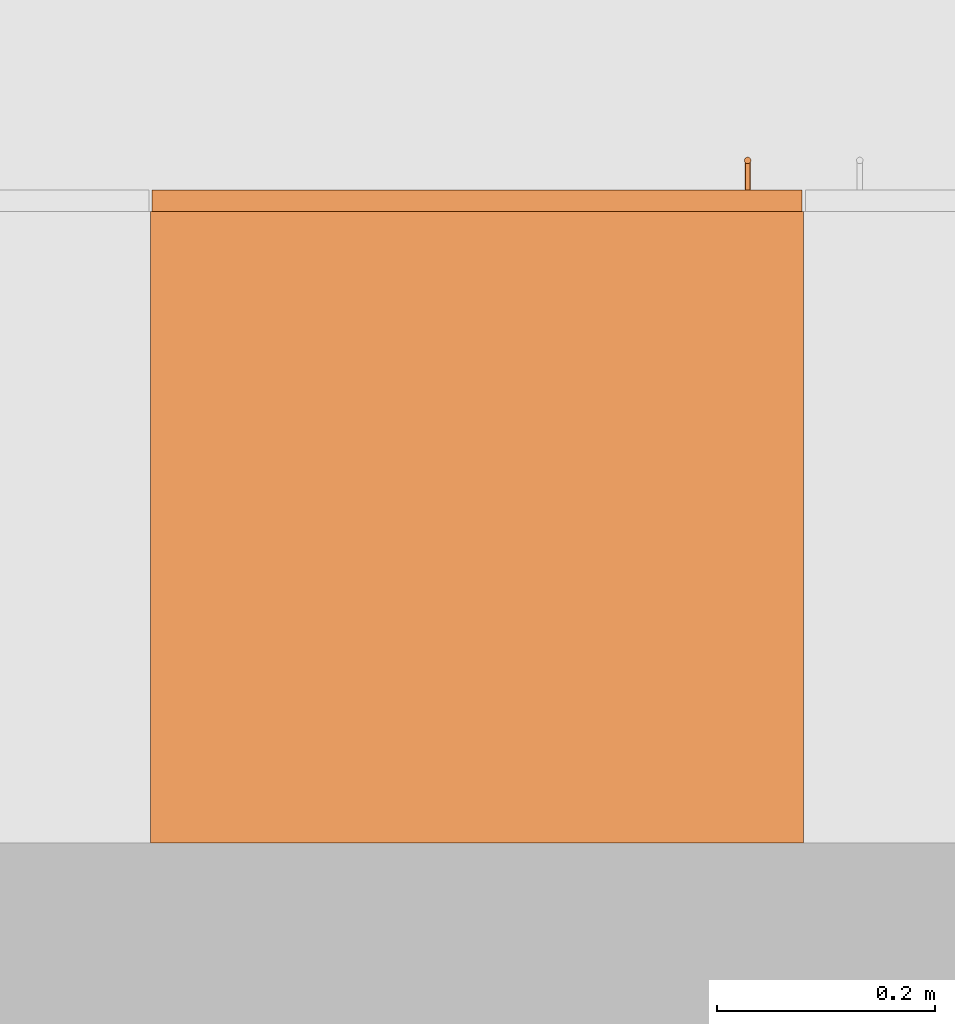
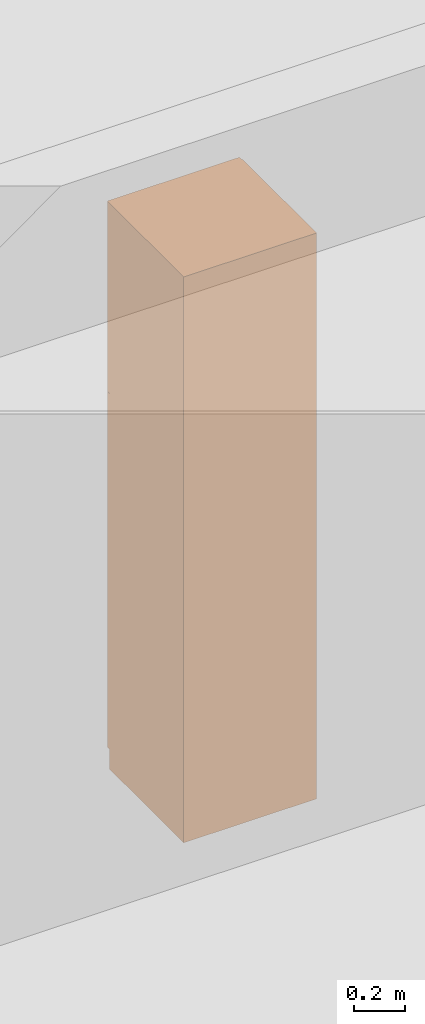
# One storey, part 99 of 167: 1 proxy.
"""IFC2X3 building model written with IfcOpenShell, lengths in millimetres."""

from ifc_helpers import new_model, entity, si_unit, converted_unit, derived_unit, money_unit, direction, frame, origin_with_axes, place, context, subcontext, project, spatial, open_shell, faceted_brep, surface_model, source, transform, mapped, type_object, type_shapes, element, save


model = new_model("IFC2X3")

# Units and contexts
model_context = context("Model", 3, precision=0.01, world=origin_with_axes(), true_north=direction((0.0, 1.0)))
plan_context = context("Plan", 3, precision=0.01, world=origin_with_axes(), true_north=direction((0.0, 1.0)))
body_context = subcontext(model_context, "Body", "Model", "MODEL_VIEW")
ifc_project = project(units=[si_unit("LENGTHUNIT", "METRE", prefix="MILLI"), si_unit("AREAUNIT", "SQUARE_METRE"), si_unit("VOLUMEUNIT", "CUBIC_METRE"), converted_unit("PLANEANGLEUNIT", "DEGREE", entity("IfcPlaneAngleMeasure", 0.0174532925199), si_unit("PLANEANGLEUNIT", "RADIAN"), dimensions=[0, 0, 0, 0, 0, 0, 0]), si_unit("SOLIDANGLEUNIT", "STERADIAN"), money_unit("EUR"), converted_unit("TIMEUNIT", "Year", entity("IfcTimeMeasure", 31556926.0), si_unit("TIMEUNIT", "SECOND"), dimensions=[0, 0, 1, 0, 0, 0, 0]), si_unit("MASSUNIT", "GRAM", prefix="KILO"), si_unit("THERMODYNAMICTEMPERATUREUNIT", "DEGREE_CELSIUS"), si_unit("LUMINOUSINTENSITYUNIT", "LUMEN"), si_unit("ENERGYUNIT", "JOULE", prefix="MEGA"), derived_unit("THERMALCONDUCTANCEUNIT", [(si_unit("POWERUNIT", "WATT"), 1), (si_unit("LENGTHUNIT", "METRE"), -1), (si_unit("THERMODYNAMICTEMPERATUREUNIT", "KELVIN"), -1)]), derived_unit("SPECIFICHEATCAPACITYUNIT", [(si_unit("ENERGYUNIT", "JOULE"), 1), (si_unit("MASSUNIT", "GRAM", prefix="KILO"), -1), (si_unit("THERMODYNAMICTEMPERATUREUNIT", "KELVIN"), -1)]), derived_unit("MASSDENSITYUNIT", [(si_unit("MASSUNIT", "GRAM", prefix="KILO"), 1), (si_unit("VOLUMEUNIT", "CUBIC_METRE"), -1)])], contexts=[model_context, plan_context])

# Site, building, storey
site_placement = place(None, origin_with_axes())
site = spatial("IfcSite", under=ifc_project, at=site_placement, Name="Site", CompositionType="ELEMENT")
building_placement = place(site_placement, origin_with_axes())
building = spatial("IfcBuilding", under=site, at=building_placement, Name="Naam gebouw", CompositionType="ELEMENT")
storey_placement = place(building_placement, origin_with_axes())
storey = spatial("IfcBuildingStorey", under=building, at=storey_placement, Name="Begane grond", CompositionType="ELEMENT", Elevation=0.0)

# Proxy
building_element_proxy_type = type_object("IfcBuildingElementProxyType", Name="Kast hoog 1D 24", PredefinedType="NOTDEFINED")
shared_shape = source(origin_with_axes(), body_context, "Body", "SurfaceModel", [
    faceted_brep([(-20.0, 20.0, 1780.0), (-20.0, 20.0, 1800.0), (-580.0, 20.0, 1800.0), (-580.0, 20.0, 1780.0), (-20.0, 580.0, 1780.0), (-20.0, 580.0, 1800.0), (-580.0, 580.0, 1800.0), (-580.0, 580.0, 1780.0)], [[[0, 1, 2, 3]], [[4, 5, 1, 0]], [[1, 5, 6, 2]], [[3, 2, 6, 7]], [[0, 3, 7, 4]], [[7, 6, 5, 4]]]),
    faceted_brep([(0.0, 20.0, 0.0), (0.0, 20.0, 90.0), (-600.0, 20.0, 90.0), (-600.0, 20.0, 0.0), (0.0, 600.0, 0.0), (0.0, 600.0, 90.0), (-600.0, 600.0, 90.0), (-600.0, 600.0, 0.0)], [[[0, 1, 2, 3]], [[4, 5, 1, 0]], [[1, 5, 6, 2]], [[3, 2, 6, 7]], [[0, 3, 7, 4]], [[7, 6, 5, 4]]]),
    faceted_brep([(0.0, 20.0, 2680.0), (0.0, 20.0, 2700.0), (-20.0, 20.0, 2700.0), (-20.0, 20.0, 2680.0), (0.0, 600.0, 2680.0), (0.0, 600.0, 2700.0), (-20.0, 600.0, 2700.0), (-580.0, 600.0, 2700.0), (-600.0, 600.0, 2700.0), (-600.0, 20.0, 2700.0), (-580.0, 20.0, 2700.0), (-580.0, 20.0, 2680.0), (-600.0, 20.0, 2680.0), (-600.0, 600.0, 2680.0), (-580.0, 600.0, 2680.0), (-20.0, 600.0, 2680.0)], [[[0, 1, 2, 3]], [[4, 5, 1, 0]], [[1, 5, 6, 7, 8, 9, 10, 2]], [[3, 2, 10, 11]], [[0, 3, 11, 12, 13, 14, 15, 4]], [[15, 6, 5, 4]], [[14, 7, 6, 15]], [[13, 8, 7, 14]], [[12, 9, 8, 13]], [[11, 10, 9, 12]]]),
    faceted_brep([(0.0, 20.0, 90.0), (0.0, 20.0, 110.0), (-20.0, 20.0, 110.0), (-20.0, 20.0, 90.0), (0.0, 600.0, 90.0), (0.0, 600.0, 110.0), (-20.0, 600.0, 110.0), (-580.0, 600.0, 110.0), (-600.0, 600.0, 110.0), (-600.0, 20.0, 110.0), (-580.0, 20.0, 110.0), (-580.0, 20.0, 90.0), (-600.0, 20.0, 90.0), (-600.0, 600.0, 90.0), (-580.0, 600.0, 90.0), (-20.0, 600.0, 90.0)], [[[0, 1, 2, 3]], [[4, 5, 1, 0]], [[1, 5, 6, 7, 8, 9, 10, 2]], [[3, 2, 10, 11]], [[0, 3, 11, 12, 13, 14, 15, 4]], [[15, 6, 5, 4]], [[14, 7, 6, 15]], [[13, 8, 7, 14]], [[12, 9, 8, 13]], [[11, 10, 9, 12]]]),
    faceted_brep([(0.0, 20.0, 110.0), (0.0, 20.0, 2680.0), (-20.0, 20.0, 2680.0), (-20.0, 20.0, 110.0), (0.0, 600.0, 110.0), (0.0, 600.0, 2680.0), (-600.0, 600.0, 2680.0), (-600.0, 20.0, 2680.0), (-580.0, 20.0, 2680.0), (-580.0, 580.0, 2680.0), (-20.0, 580.0, 2680.0), (-20.0, 580.0, 110.0), (-580.0, 580.0, 110.0), (-580.0, 20.0, 110.0), (-600.0, 20.0, 110.0), (-600.0, 600.0, 110.0)], [[[0, 1, 2, 3]], [[4, 5, 1, 0]], [[1, 5, 6, 7, 8, 9, 10, 2]], [[3, 2, 10, 11]], [[0, 3, 11, 12, 13, 14, 15, 4]], [[15, 6, 5, 4]], [[14, 7, 6, 15]], [[13, 8, 7, 14]], [[12, 9, 8, 13]], [[11, 10, 9, 12]]]),
    faceted_brep([(-580.0, 20.0, 414.0), (-580.0, 20.0, 434.0), (-580.0, 580.0, 434.0), (-580.0, 580.0, 414.0), (-20.0, 20.0, 414.0), (-20.0, 20.0, 434.0), (-20.0, 580.0, 434.0), (-20.0, 580.0, 414.0)], [[[0, 1, 2, 3]], [[4, 5, 1, 0]], [[1, 5, 6, 2]], [[3, 2, 6, 7]], [[0, 3, 7, 4]], [[7, 6, 5, 4]]]),
    faceted_brep([(-580.0, 20.0, 758.0), (-580.0, 20.0, 778.0), (-580.0, 580.0, 778.0), (-580.0, 580.0, 758.0), (-20.0, 20.0, 758.0), (-20.0, 20.0, 778.0), (-20.0, 580.0, 778.0), (-20.0, 580.0, 758.0)], [[[0, 1, 2, 3]], [[4, 5, 1, 0]], [[1, 5, 6, 2]], [[3, 2, 6, 7]], [[0, 3, 7, 4]], [[7, 6, 5, 4]]]),
    faceted_brep([(-580.0, 20.0, 1102.0), (-580.0, 20.0, 1122.0), (-580.0, 580.0, 1122.0), (-580.0, 580.0, 1102.0), (-20.0, 20.0, 1102.0), (-20.0, 20.0, 1122.0), (-20.0, 580.0, 1122.0), (-20.0, 580.0, 1102.0)], [[[0, 1, 2, 3]], [[4, 5, 1, 0]], [[1, 5, 6, 2]], [[3, 2, 6, 7]], [[0, 3, 7, 4]], [[7, 6, 5, 4]]]),
    faceted_brep([(-580.0, 20.0, 1446.0), (-580.0, 20.0, 1466.0), (-580.0, 580.0, 1466.0), (-580.0, 580.0, 1446.0), (-20.0, 20.0, 1446.0), (-20.0, 20.0, 1466.0), (-20.0, 580.0, 1466.0), (-20.0, 580.0, 1446.0)], [[[0, 1, 2, 3]], [[4, 5, 1, 0]], [[1, 5, 6, 2]], [[3, 2, 6, 7]], [[0, 3, 7, 4]], [[7, 6, 5, 4]]]),
    faceted_brep([(-1.5, 20.0, 91.5), (-1.5, 0.0, 91.5), (-598.5, 0.0, 91.5), (-598.5, 20.0, 91.5), (-1.5, 20.0, 1788.5), (-1.5, 0.0, 1788.5), (-598.5, 0.0, 1788.5), (-598.5, 20.0, 1788.5)], [[[0, 1, 2, 3]], [[4, 5, 1, 0]], [[1, 5, 6, 2]], [[3, 2, 6, 7]], [[0, 3, 7, 4]], [[7, 6, 5, 4]]]),
    faceted_brep([(-551.397777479, -27.7764571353, 891.5), (-551.5, -27.0, 891.5), (-551.397777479, -26.2235428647, 891.5), (-551.098076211, -25.5, 891.5), (-550.621320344, -24.8786796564, 891.5), (-550.0, -24.4019237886, 891.5), (-549.276457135, -24.1022225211, 891.5), (-548.5, -24.0, 891.5), (-547.723542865, -24.1022225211, 891.5), (-547.0, -24.4019237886, 891.5), (-546.378679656, -24.8786796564, 891.5), (-545.901923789, -25.5, 891.5), (-545.602222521, -26.2235428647, 891.5), (-545.5, -27.0, 891.5), (-545.602222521, -27.7764571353, 891.5), (-545.901923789, -28.5, 891.5), (-546.378679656, -29.1213203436, 891.5), (-547.0, -29.5980762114, 891.5), (-547.723542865, -29.8977774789, 891.5), (-548.5, -30.0, 891.5), (-549.276457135, -29.8977774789, 891.5), (-550.0, -29.5980762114, 891.5), (-550.621320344, -29.1213203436, 891.5), (-551.098076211, -28.5, 891.5), (-551.397777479, -27.7764571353, 1141.5), (-551.5, -27.0, 1141.5), (-551.397777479, -26.2235428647, 1141.5), (-551.098076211, -25.5, 1141.5), (-550.621320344, -24.8786796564, 1141.5), (-550.0, -24.4019237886, 1141.5), (-549.276457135, -24.1022225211, 1141.5), (-548.5, -24.0, 1141.5), (-547.723542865, -24.1022225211, 1141.5), (-547.0, -24.4019237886, 1141.5), (-546.378679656, -24.8786796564, 1141.5), (-545.901923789, -25.5, 1141.5), (-545.602222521, -26.2235428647, 1141.5), (-545.5, -27.0, 1141.5), (-545.602222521, -27.7764571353, 1141.5), (-545.901923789, -28.5, 1141.5), (-546.378679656, -29.1213203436, 1141.5), (-547.0, -29.5980762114, 1141.5), (-547.723542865, -29.8977774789, 1141.5), (-548.5, -30.0, 1141.5), (-549.276457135, -29.8977774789, 1141.5), (-550.0, -29.5980762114, 1141.5), (-550.621320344, -29.1213203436, 1141.5), (-551.098076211, -28.5, 1141.5)], [[[0, 1, 2, 3, 4, 5, 6, 7, 8, 9, 10, 11, 12, 13, 14, 15, 16, 17, 18, 19, 20, 21, 22, 23]], [[0, 24, 25, 1]], [[1, 25, 26, 2]], [[2, 26, 27, 3]], [[3, 27, 28, 4]], [[4, 28, 29, 5]], [[5, 29, 30, 6]], [[6, 30, 31, 7]], [[7, 31, 32, 8]], [[8, 32, 33, 9]], [[9, 33, 34, 10]], [[10, 34, 35, 11]], [[11, 35, 36, 12]], [[12, 36, 37, 13]], [[13, 37, 38, 14]], [[14, 38, 39, 15]], [[15, 39, 40, 16]], [[16, 40, 41, 17]], [[17, 41, 42, 18]], [[18, 42, 43, 19]], [[19, 43, 44, 20]], [[20, 44, 45, 21]], [[21, 45, 46, 22]], [[22, 46, 47, 23]], [[23, 47, 24, 0]], [[24, 47, 46, 45, 44, 43, 42, 41, 40, 39, 38, 37, 36, 35, 34, 33, 32, 31, 30, 29, 28, 27, 26, 25]]]),
    surface_model("IfcShellBasedSurfaceModel", [(-549.147047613, -24.070609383, 914.085185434), (-549.147047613, 0.0, 914.085185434), (-548.5, 0.0, 914.0), (-548.5, -24.0, 914.0), (-549.75, -24.2728219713, 914.334936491), (-549.75, 0.0, 914.334936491), (-550.267766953, 0.0, 914.732233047), (-550.665063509, 0.0, 915.25), (-550.914814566, 0.0, 915.852952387), (-551.0, 0.0, 916.5), (-550.914814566, 0.0, 917.147047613), (-550.665063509, 0.0, 917.75), (-550.267766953, 0.0, 918.267766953), (-549.75, 0.0, 918.665063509), (-549.147047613, 0.0, 918.914814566), (-548.5, 0.0, 919.0), (-547.852952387, 0.0, 918.914814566), (-547.25, 0.0, 918.665063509), (-546.732233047, 0.0, 918.267766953), (-546.334936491, 0.0, 917.75), (-546.085185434, 0.0, 917.147047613), (-546.0, 0.0, 916.5), (-546.085185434, 0.0, 915.852952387), (-546.334936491, 0.0, 915.25), (-546.732233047, 0.0, 914.732233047), (-547.25, 0.0, 914.334936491), (-547.852952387, 0.0, 914.085185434), (-547.852952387, -24.070609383, 914.085185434), (-550.267766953, -24.5761600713, 914.732233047), (-550.665063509, -24.9233440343, 915.25), (-550.914814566, -25.2199239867, 915.852952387), (-551.0, -25.3416876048, 916.5), (-550.914814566, -25.2199239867, 917.147047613), (-550.665063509, -24.9233440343, 917.75), (-550.267766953, -24.5761600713, 918.267766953), (-549.75, -24.2728219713, 918.665063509), (-549.147047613, -24.070609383, 918.914814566), (-548.5, -24.0, 919.0), (-547.852952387, -24.070609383, 918.914814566), (-547.25, -24.2728219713, 918.665063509), (-546.732233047, -24.5761600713, 918.267766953), (-546.334936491, -24.9233440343, 917.75), (-546.085185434, -25.2199239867, 917.147047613), (-546.0, -25.3416876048, 916.5), (-546.085185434, -25.2199239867, 915.852952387), (-546.334936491, -24.9233440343, 915.25), (-546.732233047, -24.5761600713, 914.732233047), (-547.25, -24.2728219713, 914.334936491)], [open_shell([[[0, 1, 2, 3]], [[4, 5, 1, 0]], [[1, 5, 6, 7, 8, 9, 10, 11, 12, 13, 14, 15, 16, 17, 18, 19, 20, 21, 22, 23, 24, 25, 26, 2]], [[3, 2, 26, 27]], [[28, 6, 5, 4]], [[29, 7, 6, 28]], [[30, 8, 7, 29]], [[31, 9, 8, 30]], [[32, 10, 9, 31]], [[33, 11, 10, 32]], [[34, 12, 11, 33]], [[35, 13, 12, 34]], [[36, 14, 13, 35]], [[37, 15, 14, 36]], [[38, 16, 15, 37]], [[39, 17, 16, 38]], [[40, 18, 17, 39]], [[41, 19, 18, 40]], [[42, 20, 19, 41]], [[43, 21, 20, 42]], [[44, 22, 21, 43]], [[45, 23, 22, 44]], [[46, 24, 23, 45]], [[47, 25, 24, 46]], [[27, 26, 25, 47]]])]),
    surface_model("IfcShellBasedSurfaceModel", [(-549.147047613, -24.070609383, 1114.08518543), (-549.147047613, 0.0, 1114.08518543), (-548.5, 0.0, 1114.0), (-548.5, -24.0, 1114.0), (-549.75, -24.2728219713, 1114.33493649), (-549.75, 0.0, 1114.33493649), (-550.267766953, 0.0, 1114.73223305), (-550.665063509, 0.0, 1115.25), (-550.914814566, 0.0, 1115.85295239), (-551.0, 0.0, 1116.5), (-550.914814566, 0.0, 1117.14704761), (-550.665063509, 0.0, 1117.75), (-550.267766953, 0.0, 1118.26776695), (-549.75, 0.0, 1118.66506351), (-549.147047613, 0.0, 1118.91481457), (-548.5, 0.0, 1119.0), (-547.852952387, 0.0, 1118.91481457), (-547.25, 0.0, 1118.66506351), (-546.732233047, 0.0, 1118.26776695), (-546.334936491, 0.0, 1117.75), (-546.085185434, 0.0, 1117.14704761), (-546.0, 0.0, 1116.5), (-546.085185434, 0.0, 1115.85295239), (-546.334936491, 0.0, 1115.25), (-546.732233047, 0.0, 1114.73223305), (-547.25, 0.0, 1114.33493649), (-547.852952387, 0.0, 1114.08518543), (-547.852952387, -24.070609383, 1114.08518543), (-550.267766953, -24.5761600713, 1114.73223305), (-550.665063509, -24.9233440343, 1115.25), (-550.914814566, -25.2199239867, 1115.85295239), (-551.0, -25.3416876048, 1116.5), (-550.914814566, -25.2199239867, 1117.14704761), (-550.665063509, -24.9233440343, 1117.75), (-550.267766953, -24.5761600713, 1118.26776695), (-549.75, -24.2728219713, 1118.66506351), (-549.147047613, -24.070609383, 1118.91481457), (-548.5, -24.0, 1119.0), (-547.852952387, -24.070609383, 1118.91481457), (-547.25, -24.2728219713, 1118.66506351), (-546.732233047, -24.5761600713, 1118.26776695), (-546.334936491, -24.9233440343, 1117.75), (-546.085185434, -25.2199239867, 1117.14704761), (-546.0, -25.3416876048, 1116.5), (-546.085185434, -25.2199239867, 1115.85295239), (-546.334936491, -24.9233440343, 1115.25), (-546.732233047, -24.5761600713, 1114.73223305), (-547.25, -24.2728219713, 1114.33493649)], [open_shell([[[0, 1, 2, 3]], [[4, 5, 1, 0]], [[1, 5, 6, 7, 8, 9, 10, 11, 12, 13, 14, 15, 16, 17, 18, 19, 20, 21, 22, 23, 24, 25, 26, 2]], [[3, 2, 26, 27]], [[28, 6, 5, 4]], [[29, 7, 6, 28]], [[30, 8, 7, 29]], [[31, 9, 8, 30]], [[32, 10, 9, 31]], [[33, 11, 10, 32]], [[34, 12, 11, 33]], [[35, 13, 12, 34]], [[36, 14, 13, 35]], [[37, 15, 14, 36]], [[38, 16, 15, 37]], [[39, 17, 16, 38]], [[40, 18, 17, 39]], [[41, 19, 18, 40]], [[42, 20, 19, 41]], [[43, 21, 20, 42]], [[44, 22, 21, 43]], [[45, 23, 22, 44]], [[46, 24, 23, 45]], [[47, 25, 24, 46]], [[27, 26, 25, 47]]])]),
    faceted_brep([(-1.5, 20.0, 1791.5), (-1.5, 0.0, 1791.5), (-598.5, 0.0, 1791.5), (-598.5, 20.0, 1791.5), (-1.5, 20.0, 2698.5), (-1.5, 0.0, 2698.5), (-598.5, 0.0, 2698.5), (-598.5, 20.0, 2698.5)], [[[0, 1, 2, 3]], [[4, 5, 1, 0]], [[1, 5, 6, 2]], [[3, 2, 6, 7]], [[0, 3, 7, 4]], [[7, 6, 5, 4]]]),
    faceted_brep([(-551.397777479, -27.7764571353, 1841.5), (-551.5, -27.0, 1841.5), (-551.397777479, -26.2235428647, 1841.5), (-551.098076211, -25.5, 1841.5), (-550.621320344, -24.8786796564, 1841.5), (-550.0, -24.4019237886, 1841.5), (-549.276457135, -24.1022225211, 1841.5), (-548.5, -24.0, 1841.5), (-547.723542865, -24.1022225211, 1841.5), (-547.0, -24.4019237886, 1841.5), (-546.378679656, -24.8786796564, 1841.5), (-545.901923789, -25.5, 1841.5), (-545.602222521, -26.2235428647, 1841.5), (-545.5, -27.0, 1841.5), (-545.602222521, -27.7764571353, 1841.5), (-545.901923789, -28.5, 1841.5), (-546.378679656, -29.1213203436, 1841.5), (-547.0, -29.5980762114, 1841.5), (-547.723542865, -29.8977774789, 1841.5), (-548.5, -30.0, 1841.5), (-549.276457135, -29.8977774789, 1841.5), (-550.0, -29.5980762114, 1841.5), (-550.621320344, -29.1213203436, 1841.5), (-551.098076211, -28.5, 1841.5), (-551.397777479, -27.7764571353, 2091.5), (-551.5, -27.0, 2091.5), (-551.397777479, -26.2235428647, 2091.5), (-551.098076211, -25.5, 2091.5), (-550.621320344, -24.8786796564, 2091.5), (-550.0, -24.4019237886, 2091.5), (-549.276457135, -24.1022225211, 2091.5), (-548.5, -24.0, 2091.5), (-547.723542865, -24.1022225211, 2091.5), (-547.0, -24.4019237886, 2091.5), (-546.378679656, -24.8786796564, 2091.5), (-545.901923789, -25.5, 2091.5), (-545.602222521, -26.2235428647, 2091.5), (-545.5, -27.0, 2091.5), (-545.602222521, -27.7764571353, 2091.5), (-545.901923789, -28.5, 2091.5), (-546.378679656, -29.1213203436, 2091.5), (-547.0, -29.5980762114, 2091.5), (-547.723542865, -29.8977774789, 2091.5), (-548.5, -30.0, 2091.5), (-549.276457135, -29.8977774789, 2091.5), (-550.0, -29.5980762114, 2091.5), (-550.621320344, -29.1213203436, 2091.5), (-551.098076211, -28.5, 2091.5)], [[[0, 1, 2, 3, 4, 5, 6, 7, 8, 9, 10, 11, 12, 13, 14, 15, 16, 17, 18, 19, 20, 21, 22, 23]], [[0, 24, 25, 1]], [[1, 25, 26, 2]], [[2, 26, 27, 3]], [[3, 27, 28, 4]], [[4, 28, 29, 5]], [[5, 29, 30, 6]], [[6, 30, 31, 7]], [[7, 31, 32, 8]], [[8, 32, 33, 9]], [[9, 33, 34, 10]], [[10, 34, 35, 11]], [[11, 35, 36, 12]], [[12, 36, 37, 13]], [[13, 37, 38, 14]], [[14, 38, 39, 15]], [[15, 39, 40, 16]], [[16, 40, 41, 17]], [[17, 41, 42, 18]], [[18, 42, 43, 19]], [[19, 43, 44, 20]], [[20, 44, 45, 21]], [[21, 45, 46, 22]], [[22, 46, 47, 23]], [[23, 47, 24, 0]], [[24, 47, 46, 45, 44, 43, 42, 41, 40, 39, 38, 37, 36, 35, 34, 33, 32, 31, 30, 29, 28, 27, 26, 25]]]),
    surface_model("IfcShellBasedSurfaceModel", [(-549.147047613, -24.070609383, 1864.08518543), (-549.147047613, 0.0, 1864.08518543), (-548.5, 0.0, 1864.0), (-548.5, -24.0, 1864.0), (-549.75, -24.2728219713, 1864.33493649), (-549.75, 0.0, 1864.33493649), (-550.267766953, 0.0, 1864.73223305), (-550.665063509, 0.0, 1865.25), (-550.914814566, 0.0, 1865.85295239), (-551.0, 0.0, 1866.5), (-550.914814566, 0.0, 1867.14704761), (-550.665063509, 0.0, 1867.75), (-550.267766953, 0.0, 1868.26776695), (-549.75, 0.0, 1868.66506351), (-549.147047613, 0.0, 1868.91481457), (-548.5, 0.0, 1869.0), (-547.852952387, 0.0, 1868.91481457), (-547.25, 0.0, 1868.66506351), (-546.732233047, 0.0, 1868.26776695), (-546.334936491, 0.0, 1867.75), (-546.085185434, 0.0, 1867.14704761), (-546.0, 0.0, 1866.5), (-546.085185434, 0.0, 1865.85295239), (-546.334936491, 0.0, 1865.25), (-546.732233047, 0.0, 1864.73223305), (-547.25, 0.0, 1864.33493649), (-547.852952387, 0.0, 1864.08518543), (-547.852952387, -24.070609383, 1864.08518543), (-550.267766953, -24.5761600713, 1864.73223305), (-550.665063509, -24.9233440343, 1865.25), (-550.914814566, -25.2199239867, 1865.85295239), (-551.0, -25.3416876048, 1866.5), (-550.914814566, -25.2199239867, 1867.14704761), (-550.665063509, -24.9233440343, 1867.75), (-550.267766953, -24.5761600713, 1868.26776695), (-549.75, -24.2728219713, 1868.66506351), (-549.147047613, -24.070609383, 1868.91481457), (-548.5, -24.0, 1869.0), (-547.852952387, -24.070609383, 1868.91481457), (-547.25, -24.2728219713, 1868.66506351), (-546.732233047, -24.5761600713, 1868.26776695), (-546.334936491, -24.9233440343, 1867.75), (-546.085185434, -25.2199239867, 1867.14704761), (-546.0, -25.3416876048, 1866.5), (-546.085185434, -25.2199239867, 1865.85295239), (-546.334936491, -24.9233440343, 1865.25), (-546.732233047, -24.5761600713, 1864.73223305), (-547.25, -24.2728219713, 1864.33493649)], [open_shell([[[0, 1, 2, 3]], [[4, 5, 1, 0]], [[1, 5, 6, 7, 8, 9, 10, 11, 12, 13, 14, 15, 16, 17, 18, 19, 20, 21, 22, 23, 24, 25, 26, 2]], [[3, 2, 26, 27]], [[28, 6, 5, 4]], [[29, 7, 6, 28]], [[30, 8, 7, 29]], [[31, 9, 8, 30]], [[32, 10, 9, 31]], [[33, 11, 10, 32]], [[34, 12, 11, 33]], [[35, 13, 12, 34]], [[36, 14, 13, 35]], [[37, 15, 14, 36]], [[38, 16, 15, 37]], [[39, 17, 16, 38]], [[40, 18, 17, 39]], [[41, 19, 18, 40]], [[42, 20, 19, 41]], [[43, 21, 20, 42]], [[44, 22, 21, 43]], [[45, 23, 22, 44]], [[46, 24, 23, 45]], [[47, 25, 24, 46]], [[27, 26, 25, 47]]])]),
    surface_model("IfcShellBasedSurfaceModel", [(-549.147047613, -24.070609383, 2064.08518543), (-549.147047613, 0.0, 2064.08518543), (-548.5, 0.0, 2064.0), (-548.5, -24.0, 2064.0), (-549.75, -24.2728219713, 2064.33493649), (-549.75, 0.0, 2064.33493649), (-550.267766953, 0.0, 2064.73223305), (-550.665063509, 0.0, 2065.25), (-550.914814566, 0.0, 2065.85295239), (-551.0, 0.0, 2066.5), (-550.914814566, 0.0, 2067.14704761), (-550.665063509, 0.0, 2067.75), (-550.267766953, 0.0, 2068.26776695), (-549.75, 0.0, 2068.66506351), (-549.147047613, 0.0, 2068.91481457), (-548.5, 0.0, 2069.0), (-547.852952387, 0.0, 2068.91481457), (-547.25, 0.0, 2068.66506351), (-546.732233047, 0.0, 2068.26776695), (-546.334936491, 0.0, 2067.75), (-546.085185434, 0.0, 2067.14704761), (-546.0, 0.0, 2066.5), (-546.085185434, 0.0, 2065.85295239), (-546.334936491, 0.0, 2065.25), (-546.732233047, 0.0, 2064.73223305), (-547.25, 0.0, 2064.33493649), (-547.852952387, 0.0, 2064.08518543), (-547.852952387, -24.070609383, 2064.08518543), (-550.267766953, -24.5761600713, 2064.73223305), (-550.665063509, -24.9233440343, 2065.25), (-550.914814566, -25.2199239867, 2065.85295239), (-551.0, -25.3416876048, 2066.5), (-550.914814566, -25.2199239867, 2067.14704761), (-550.665063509, -24.9233440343, 2067.75), (-550.267766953, -24.5761600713, 2068.26776695), (-549.75, -24.2728219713, 2068.66506351), (-549.147047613, -24.070609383, 2068.91481457), (-548.5, -24.0, 2069.0), (-547.852952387, -24.070609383, 2068.91481457), (-547.25, -24.2728219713, 2068.66506351), (-546.732233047, -24.5761600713, 2068.26776695), (-546.334936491, -24.9233440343, 2067.75), (-546.085185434, -25.2199239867, 2067.14704761), (-546.0, -25.3416876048, 2066.5), (-546.085185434, -25.2199239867, 2065.85295239), (-546.334936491, -24.9233440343, 2065.25), (-546.732233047, -24.5761600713, 2064.73223305), (-547.25, -24.2728219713, 2064.33493649)], [open_shell([[[0, 1, 2, 3]], [[4, 5, 1, 0]], [[1, 5, 6, 7, 8, 9, 10, 11, 12, 13, 14, 15, 16, 17, 18, 19, 20, 21, 22, 23, 24, 25, 26, 2]], [[3, 2, 26, 27]], [[28, 6, 5, 4]], [[29, 7, 6, 28]], [[30, 8, 7, 29]], [[31, 9, 8, 30]], [[32, 10, 9, 31]], [[33, 11, 10, 32]], [[34, 12, 11, 33]], [[35, 13, 12, 34]], [[36, 14, 13, 35]], [[37, 15, 14, 36]], [[38, 16, 15, 37]], [[39, 17, 16, 38]], [[40, 18, 17, 39]], [[41, 19, 18, 40]], [[42, 20, 19, 41]], [[43, 21, 20, 42]], [[44, 22, 21, 43]], [[45, 23, 22, 44]], [[46, 24, 23, 45]], [[47, 25, 24, 46]], [[27, 26, 25, 47]]])]),
])
type_shapes(building_element_proxy_type, [shared_shape])
proxy_placement = place(storey_placement, frame((6400.0, 36725.0, 0.0), z_axis=(0.0, 0.0, 1.0), x_axis=(-1.0, 0.0, 0.0)))
element("IfcBuildingElementProxy", 1, at=proxy_placement, inside=storey, type_object=building_element_proxy_type, Name="__Object-x", context=body_context, shape_type="MappedRepresentation", body=[
    mapped(shared_shape, transform((0.0, 0.0, 0.0))),
])

save(model, "model.ifc")
